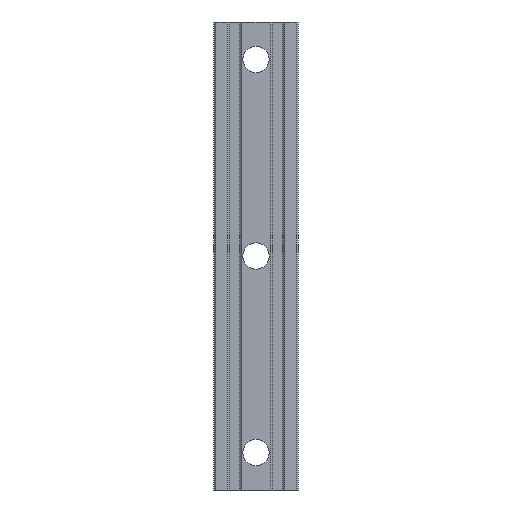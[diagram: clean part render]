
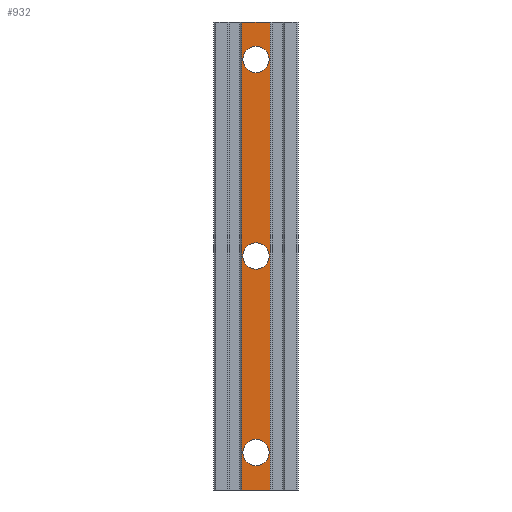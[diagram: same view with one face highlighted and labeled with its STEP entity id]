
A CAD part, front view. The second image highlights one B-rep face of the part: STEP entity #932.
In plain terms, the highlighted planar face has unit normal (0, -1, 0).
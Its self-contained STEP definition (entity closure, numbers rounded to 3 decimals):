
#4 = DIRECTION ( 'NONE',  ( 0., 1., 0. ) ) ;
#5 = CIRCLE ( 'NONE', #935, 7. ) ;
#12 = DIRECTION ( 'NONE',  ( 0., 0., 1. ) ) ;
#31 = AXIS2_PLACEMENT_3D ( 'NONE', #1222, #99, #483 ) ;
#46 = CARTESIAN_POINT ( 'NONE',  ( 0., 0., -230. ) ) ;
#52 = DIRECTION ( 'NONE',  ( -1., 0., 0. ) ) ;
#75 = VERTEX_POINT ( 'NONE', #919 ) ;
#81 = VERTEX_POINT ( 'NONE', #161 ) ;
#98 = VERTEX_POINT ( 'NONE', #182 ) ;
#99 = DIRECTION ( 'NONE',  ( 0., 1., 0. ) ) ;
#100 = CARTESIAN_POINT ( 'NONE',  ( -7.55, 0., -250. ) ) ;
#127 = VERTEX_POINT ( 'NONE', #669 ) ;
#128 = CARTESIAN_POINT ( 'NONE',  ( 0., 0., -125. ) ) ;
#136 = VECTOR ( 'NONE', #1436, 1000. ) ;
#150 = CARTESIAN_POINT ( 'NONE',  ( 0., 0., -125. ) ) ;
#155 = LINE ( 'NONE', #1019, #1396 ) ;
#161 = CARTESIAN_POINT ( 'NONE',  ( -7.55, 0., 0. ) ) ;
#182 = CARTESIAN_POINT ( 'NONE',  ( 7.55, 0., -250. ) ) ;
#195 = CIRCLE ( 'NONE', #1379, 7. ) ;
#196 = CARTESIAN_POINT ( 'NONE',  ( 7.55, 0., 0. ) ) ;
#249 = ORIENTED_EDGE ( 'NONE', *, *, #1351, .T. ) ;
#271 = VECTOR ( 'NONE', #1392, 1000. ) ;
#273 = VERTEX_POINT ( 'NONE', #984 ) ;
#279 = VERTEX_POINT ( 'NONE', #100 ) ;
#287 = CIRCLE ( 'NONE', #504, 7. ) ;
#292 = DIRECTION ( 'NONE',  ( 0., 0., 1. ) ) ;
#300 = ORIENTED_EDGE ( 'NONE', *, *, #990, .T. ) ;
#323 = VERTEX_POINT ( 'NONE', #546 ) ;
#357 = DIRECTION ( 'NONE',  ( 0., 0., 1. ) ) ;
#371 = PLANE ( 'NONE',  #1517 ) ;
#380 = FACE_OUTER_BOUND ( 'NONE', #1393, .T. ) ;
#403 = VERTEX_POINT ( 'NONE', #1417 ) ;
#421 = DIRECTION ( 'NONE',  ( 0., 0., 1. ) ) ;
#428 = LINE ( 'NONE', #196, #1279 ) ;
#483 = DIRECTION ( 'NONE',  ( 0., 0., 1. ) ) ;
#504 = AXIS2_PLACEMENT_3D ( 'NONE', #858, #1489, #357 ) ;
#510 = ORIENTED_EDGE ( 'NONE', *, *, #1120, .T. ) ;
#543 = DIRECTION ( 'NONE',  ( 0., 1., 0. ) ) ;
#546 = CARTESIAN_POINT ( 'NONE',  ( 0., 0., -223. ) ) ;
#588 = DIRECTION ( 'NONE',  ( 0., 0., 1. ) ) ;
#646 = EDGE_CURVE ( 'NONE', #98, #279, #1526, .T. ) ;
#653 = EDGE_LOOP ( 'NONE', ( #966, #300 ) ) ;
#669 = CARTESIAN_POINT ( 'NONE',  ( 0., 0., -118. ) ) ;
#673 = DIRECTION ( 'NONE',  ( 0., 0., 1. ) ) ;
#704 = EDGE_CURVE ( 'NONE', #127, #403, #195, .T. ) ;
#711 = CARTESIAN_POINT ( 'NONE',  ( -7.55, 0., -250. ) ) ;
#755 = FACE_BOUND ( 'NONE', #653, .T. ) ;
#768 = EDGE_CURVE ( 'NONE', #75, #1004, #1456, .T. ) ;
#769 = ORIENTED_EDGE ( 'NONE', *, *, #768, .T. ) ;
#781 = EDGE_LOOP ( 'NONE', ( #1564, #769 ) ) ;
#836 = AXIS2_PLACEMENT_3D ( 'NONE', #46, #937, #292 ) ;
#852 = ORIENTED_EDGE ( 'NONE', *, *, #1232, .T. ) ;
#856 = VERTEX_POINT ( 'NONE', #1468 ) ;
#858 = CARTESIAN_POINT ( 'NONE',  ( 0., 0., -20. ) ) ;
#872 = FACE_BOUND ( 'NONE', #1102, .T. ) ;
#886 = DIRECTION ( 'NONE',  ( 0., 1., 0. ) ) ;
#893 = CARTESIAN_POINT ( 'NONE',  ( 7.55, 0., -250. ) ) ;
#919 = CARTESIAN_POINT ( 'NONE',  ( 0., 0., -27. ) ) ;
#932 = ADVANCED_FACE ( 'NONE', ( #872, #755, #1256, #380 ), #371, .F. ) ;
#935 = AXIS2_PLACEMENT_3D ( 'NONE', #128, #886, #673 ) ;
#937 = DIRECTION ( 'NONE',  ( 0., 1., 0. ) ) ;
#966 = ORIENTED_EDGE ( 'NONE', *, *, #704, .T. ) ;
#984 = CARTESIAN_POINT ( 'NONE',  ( 7.55, 0., 0. ) ) ;
#990 = EDGE_CURVE ( 'NONE', #403, #127, #5, .T. ) ;
#1004 = VERTEX_POINT ( 'NONE', #1148 ) ;
#1018 = CIRCLE ( 'NONE', #836, 7. ) ;
#1019 = CARTESIAN_POINT ( 'NONE',  ( 7.55, 0., -250. ) ) ;
#1033 = EDGE_CURVE ( 'NONE', #279, #81, #1587, .T. ) ;
#1102 = EDGE_LOOP ( 'NONE', ( #249, #852 ) ) ;
#1120 = EDGE_CURVE ( 'NONE', #273, #81, #428, .T. ) ;
#1126 = ORIENTED_EDGE ( 'NONE', *, *, #1444, .T. ) ;
#1148 = CARTESIAN_POINT ( 'NONE',  ( 0., 0., -13. ) ) ;
#1221 = DIRECTION ( 'NONE',  ( 0., 1., 0. ) ) ;
#1222 = CARTESIAN_POINT ( 'NONE',  ( 0., 0., -20. ) ) ;
#1232 = EDGE_CURVE ( 'NONE', #856, #323, #1018, .T. ) ;
#1246 = DIRECTION ( 'NONE',  ( 0., 0., 1. ) ) ;
#1256 = FACE_BOUND ( 'NONE', #781, .T. ) ;
#1279 = VECTOR ( 'NONE', #52, 1000. ) ;
#1336 = EDGE_CURVE ( 'NONE', #1004, #75, #287, .T. ) ;
#1351 = EDGE_CURVE ( 'NONE', #323, #856, #1482, .T. ) ;
#1353 = CARTESIAN_POINT ( 'NONE',  ( 0., 0., -230. ) ) ;
#1370 = AXIS2_PLACEMENT_3D ( 'NONE', #1353, #1221, #588 ) ;
#1379 = AXIS2_PLACEMENT_3D ( 'NONE', #150, #543, #421 ) ;
#1392 = DIRECTION ( 'NONE',  ( -1., 0., 0. ) ) ;
#1393 = EDGE_LOOP ( 'NONE', ( #510, #1600, #1581, #1126 ) ) ;
#1396 = VECTOR ( 'NONE', #1246, 1000. ) ;
#1417 = CARTESIAN_POINT ( 'NONE',  ( 0., 0., -132. ) ) ;
#1436 = DIRECTION ( 'NONE',  ( 0., 0., 1. ) ) ;
#1444 = EDGE_CURVE ( 'NONE', #98, #273, #155, .T. ) ;
#1456 = CIRCLE ( 'NONE', #31, 7. ) ;
#1468 = CARTESIAN_POINT ( 'NONE',  ( 0., 0., -237. ) ) ;
#1482 = CIRCLE ( 'NONE', #1370, 7. ) ;
#1489 = DIRECTION ( 'NONE',  ( 0., 1., 0. ) ) ;
#1517 = AXIS2_PLACEMENT_3D ( 'NONE', #1625, #4, #12 ) ;
#1526 = LINE ( 'NONE', #893, #271 ) ;
#1564 = ORIENTED_EDGE ( 'NONE', *, *, #1336, .T. ) ;
#1581 = ORIENTED_EDGE ( 'NONE', *, *, #646, .F. ) ;
#1587 = LINE ( 'NONE', #711, #136 ) ;
#1600 = ORIENTED_EDGE ( 'NONE', *, *, #1033, .F. ) ;
#1625 = CARTESIAN_POINT ( 'NONE',  ( 7.55, 0., -250. ) ) ;
